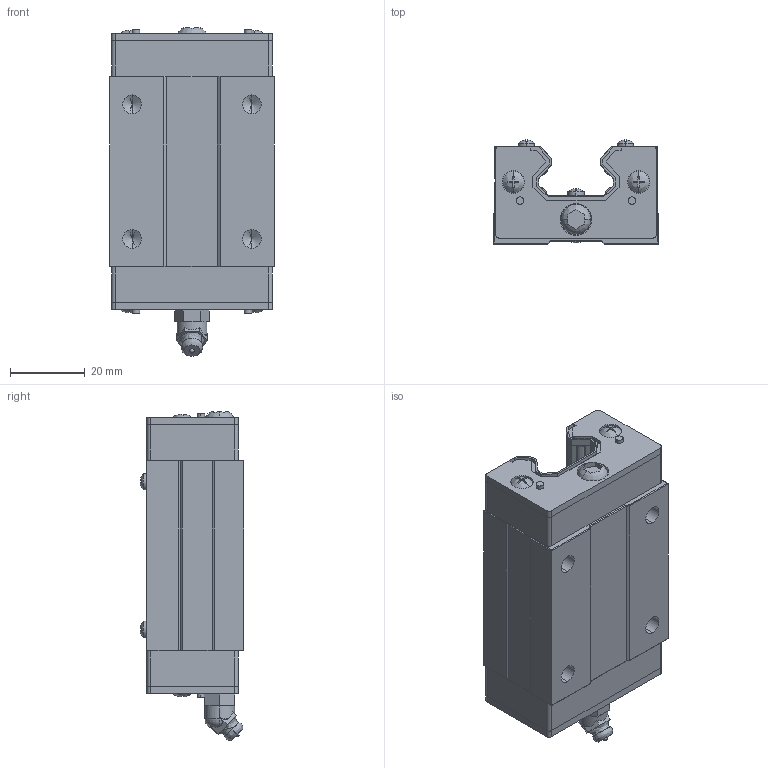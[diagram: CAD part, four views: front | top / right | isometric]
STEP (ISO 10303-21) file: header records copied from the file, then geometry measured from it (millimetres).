
FILE_DESCRIPTION (( 'STEP AP214' ), '1' );
FILE_NAME ('TRH20-B_HGH20CA.STEP', '2020-10-14T10:29:53', ( '' ), ( '' ), 'SwSTEP 2.0', 'SolidWorks 2018', '' );
FILE_SCHEMA (( 'AUTOMOTIVE_DESIGN' ));
Length unit declared in the file: millimetre
Products named in the file (8): TRH20-B_HGH20CA-4; TRH20-B_HGH20CA-7_M3*4; TRH20-B_HGH20CA-6_M3*4; TRH20-B_HGH20CA-5_M3*4; TRH20-B_HGH20CA-1; TRH20-B_HGH20CA-2; TRH20-B_HGH20CA-3; TRH20-B_HGH20CA
Assembly tree (17 placements, depth 2):
  TRH20-B_HGH20CA
    TRH20-B_HGH20CA-3  x2
    TRH20-B_HGH20CA-2  x2
    TRH20-B_HGH20CA-1
    TRH20-B_HGH20CA-5_M3*4  x6
    TRH20-B_HGH20CA-6_M3*4  x4
    TRH20-B_HGH20CA-7_M3*4
    TRH20-B_HGH20CA-4
Bounding box: 44 x 27.78 x 87.85 mm (x, y, z)
Volume: 65269 mm3; surface area: 25632.9 mm2
Topology: 18 solids, 18 shells, 810 faces, 2084 edges, 1335 vertices
Faces by surface type: plane 461, cylinder 208, bspline 58, cone 42, torus 27, sphere 14
Entity records: 18581 total; most frequent: CARTESIAN_POINT 5126, ORIENTED_EDGE 2484, DIRECTION 2261, EDGE_CURVE 1242, LINE 809, VECTOR 809, VERTEX_POINT 806, AXIS2_PLACEMENT_3D 726
